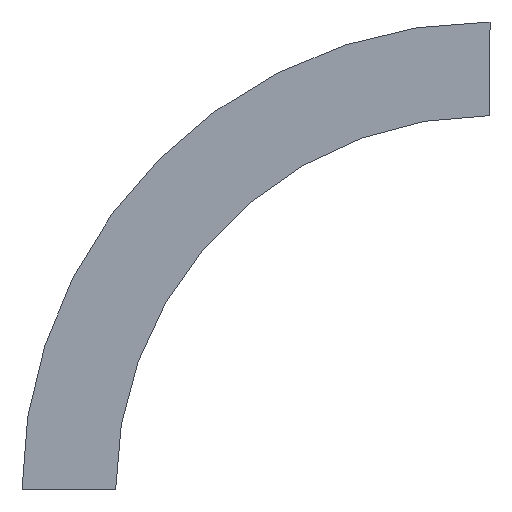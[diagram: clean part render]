
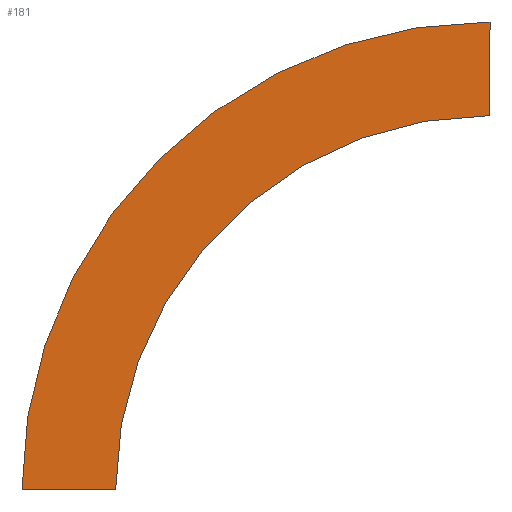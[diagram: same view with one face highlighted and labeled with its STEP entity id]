
A CAD part, left-side view. The second image highlights one B-rep face of the part: STEP entity #181.
In plain terms, the highlighted planar face has unit normal (-1, 0, 0) as drawn and (1, 0, 0) by its records, which use the part's own axes.
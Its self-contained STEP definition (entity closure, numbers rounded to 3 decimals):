
#18 = PLANE ( 'NONE',  #149 ) ;
#21 = DIRECTION ( 'NONE',  ( 1., 0., 0. ) ) ;
#25 = CARTESIAN_POINT ( 'NONE',  ( 0., -300., 0. ) ) ;
#29 = DIRECTION ( 'NONE',  ( 0., 0., 1. ) ) ;
#48 = CARTESIAN_POINT ( 'NONE',  ( 0., -300., 375. ) ) ;
#68 = EDGE_CURVE ( 'NONE', #411, #352, #563, .T. ) ;
#89 = DIRECTION ( 'NONE',  ( 1., 0., 0. ) ) ;
#92 = DIRECTION ( 'NONE',  ( 0., 1., 0. ) ) ;
#109 = ORIENTED_EDGE ( 'NONE', *, *, #407, .T. ) ;
#124 = CARTESIAN_POINT ( 'NONE',  ( 0., 0., 0. ) ) ;
#149 = AXIS2_PLACEMENT_3D ( 'NONE', #124, #155, #486 ) ;
#155 = DIRECTION ( 'NONE',  ( 1., 0., 0. ) ) ;
#165 = CARTESIAN_POINT ( 'NONE',  ( 0., 0., 0. ) ) ;
#181 = ADVANCED_FACE ( 'NONE', ( #307 ), #18, .T. ) ;
#183 = EDGE_CURVE ( 'NONE', #560, #352, #489, .T. ) ;
#215 = LINE ( 'NONE', #359, #239 ) ;
#239 = VECTOR ( 'NONE', #92, 1000. ) ;
#249 = CARTESIAN_POINT ( 'NONE',  ( 0., -300., 300. ) ) ;
#266 = CARTESIAN_POINT ( 'NONE',  ( 0., 75., 0. ) ) ;
#281 = EDGE_CURVE ( 'NONE', #370, #560, #556, .T. ) ;
#282 = ORIENTED_EDGE ( 'NONE', *, *, #281, .F. ) ;
#296 = CARTESIAN_POINT ( 'NONE',  ( 0., -300., 300. ) ) ;
#307 = FACE_OUTER_BOUND ( 'NONE', #357, .T. ) ;
#321 = AXIS2_PLACEMENT_3D ( 'NONE', #25, #21, #422 ) ;
#352 = VERTEX_POINT ( 'NONE', #48 ) ;
#357 = EDGE_LOOP ( 'NONE', ( #559, #561, #282, #109 ) ) ;
#359 = CARTESIAN_POINT ( 'NONE',  ( 0., 0., 0. ) ) ;
#370 = VERTEX_POINT ( 'NONE', #165 ) ;
#392 = DIRECTION ( 'NONE',  ( 0., 1., 0. ) ) ;
#407 = EDGE_CURVE ( 'NONE', #370, #411, #215, .T. ) ;
#411 = VERTEX_POINT ( 'NONE', #266 ) ;
#422 = DIRECTION ( 'NONE',  ( 0., 1., 0. ) ) ;
#486 = DIRECTION ( 'NONE',  ( 0., 0., -1. ) ) ;
#489 = LINE ( 'NONE', #249, #542 ) ;
#492 = CARTESIAN_POINT ( 'NONE',  ( 0., -300., 0. ) ) ;
#525 = AXIS2_PLACEMENT_3D ( 'NONE', #492, #89, #392 ) ;
#542 = VECTOR ( 'NONE', #29, 1000. ) ;
#556 = CIRCLE ( 'NONE', #525, 300. ) ;
#559 = ORIENTED_EDGE ( 'NONE', *, *, #68, .T. ) ;
#560 = VERTEX_POINT ( 'NONE', #296 ) ;
#561 = ORIENTED_EDGE ( 'NONE', *, *, #183, .F. ) ;
#563 = CIRCLE ( 'NONE', #321, 375. ) ;
